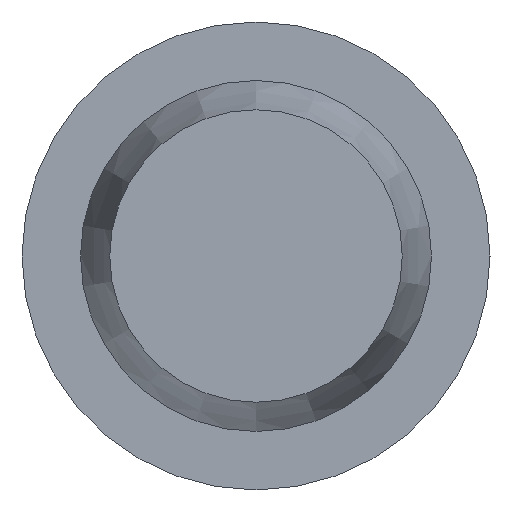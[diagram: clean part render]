
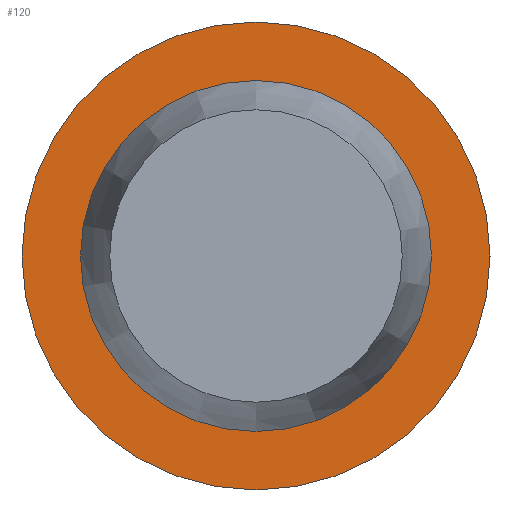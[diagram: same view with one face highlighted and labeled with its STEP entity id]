
A CAD part, left-side view. The second image highlights one B-rep face of the part: STEP entity #120.
In plain terms, the highlighted planar face has unit normal (-1, 0, 0).
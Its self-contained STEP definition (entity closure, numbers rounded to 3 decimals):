
#120=ADVANCED_FACE('',(#217,#219),#221,.T.);
#217=FACE_BOUND('',#218,.T.);
#218=EDGE_LOOP('',(#257));
#219=FACE_BOUND('',#220,.T.);
#220=EDGE_LOOP('',(#258));
#221=PLANE('',#222);
#222=AXIS2_PLACEMENT_3D('',#223,#224,#225);
#223=CARTESIAN_POINT('',(-10.,0.,0.));
#224=DIRECTION('',(-1.,0.,0.));
#225=DIRECTION('',(0.,0.,1.));
#257=ORIENTED_EDGE('',*,*,#270,.T.);
#258=ORIENTED_EDGE('',*,*,#269,.F.);
#269=EDGE_CURVE('',#286,#286,#287,.T.);
#270=EDGE_CURVE('',#288,#288,#289,.T.);
#286=VERTEX_POINT('',#327);
#287=CIRCLE('',#328,5.75);
#288=VERTEX_POINT('',#332);
#289=CIRCLE('',#333,8.);
#327=CARTESIAN_POINT('',(-10.,0.,5.75));
#328=AXIS2_PLACEMENT_3D('',#329,#330,#331);
#329=CARTESIAN_POINT('',(-10.,0.,0.));
#330=DIRECTION('',(-1.,0.,0.));
#331=DIRECTION('',(0.,0.,1.));
#332=CARTESIAN_POINT('',(-10.,0.,8.));
#333=AXIS2_PLACEMENT_3D('',#334,#335,#336);
#334=CARTESIAN_POINT('',(-10.,0.,0.));
#335=DIRECTION('',(-1.,0.,0.));
#336=DIRECTION('',(0.,0.,1.));
